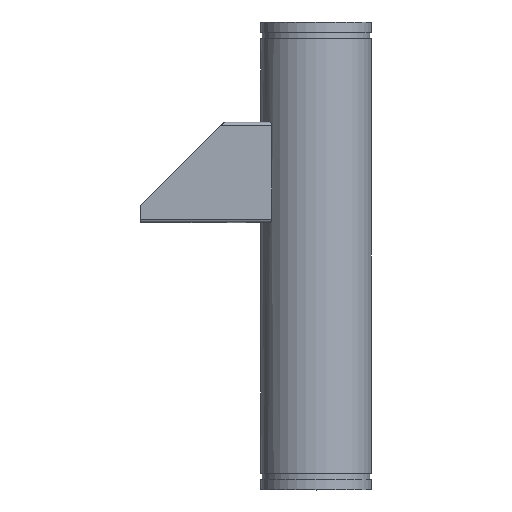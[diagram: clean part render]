
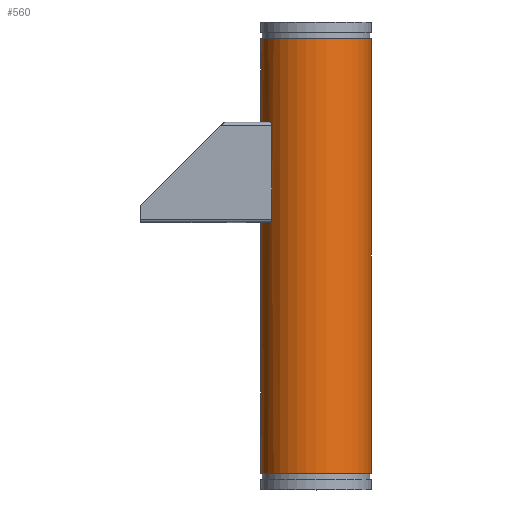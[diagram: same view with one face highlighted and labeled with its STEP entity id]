
A CAD part, top view. The second image highlights one B-rep face of the part: STEP entity #560.
In plain terms, the highlighted cylindrical face has radius 84.138 mm (diameter 168.275 mm), a full revolution.
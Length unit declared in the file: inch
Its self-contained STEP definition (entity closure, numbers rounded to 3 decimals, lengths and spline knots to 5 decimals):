
#22=CIRCLE('',#603,3.3125);
#23=CIRCLE('',#604,3.3125);
#32=CIRCLE('',#621,3.3125);
#33=CIRCLE('',#622,3.3125);
#34=CIRCLE('',#623,3.3125);
#35=CIRCLE('',#624,3.3125);
#36=CIRCLE('',#625,3.3125);
#37=CIRCLE('',#626,3.3125);
#83=FACE_OUTER_BOUND('',#111,.T.);
#111=EDGE_LOOP('',(#407,#408,#409,#410,#411,#412,#413,#414,#415,#416,#417,
#418,#419,#420,#421,#422,#423,#424));
#136=B_SPLINE_CURVE_WITH_KNOTS('',3,(#837,#838,#839,#840,#841,#842,#843,
#844,#845,#846),.UNSPECIFIED.,.F.,.F.,(4,2,2,2,4),(0.,0.19065,
0.38129,0.6161,0.85091),.UNSPECIFIED.);
#137=B_SPLINE_CURVE_WITH_KNOTS('',3,(#863,#864,#865,#866,#867,#868,#869,
#870,#871,#872),.UNSPECIFIED.,.F.,.F.,(4,2,2,2,4),(-0.85091,-0.6161,
-0.38129,-0.19065,0.),.UNSPECIFIED.);
#138=B_SPLINE_CURVE_WITH_KNOTS('',3,(#883,#884,#885,#886,#887,#888,#889,
#890,#891,#892),.UNSPECIFIED.,.F.,.F.,(4,2,2,2,4),(0.83141,1.06622,
1.30102,1.49167,1.68232),.UNSPECIFIED.);
#139=B_SPLINE_CURVE_WITH_KNOTS('',3,(#914,#915,#916,#917,#918,#919,#920,
#921,#922,#923),.UNSPECIFIED.,.F.,.F.,(4,2,2,2,4),(1.68232,1.88416,
2.08601,2.30975,2.53349),.UNSPECIFIED.);
#142=LINE('',#850,#180);
#160=LINE('',#927,#198);
#167=LINE('',#959,#205);
#168=LINE('',#962,#206);
#180=VECTOR('',#671,0.3937);
#198=VECTOR('',#711,0.3937);
#205=VECTOR('',#742,3.3125);
#206=VECTOR('',#745,3.3125);
#220=VERTEX_POINT('',#834);
#221=VERTEX_POINT('',#836);
#222=VERTEX_POINT('',#849);
#227=VERTEX_POINT('',#860);
#228=VERTEX_POINT('',#862);
#229=VERTEX_POINT('',#876);
#231=VERTEX_POINT('',#882);
#239=VERTEX_POINT('',#911);
#240=VERTEX_POINT('',#913);
#251=VERTEX_POINT('',#954);
#252=VERTEX_POINT('',#955);
#253=VERTEX_POINT('',#958);
#254=VERTEX_POINT('',#961);
#255=VERTEX_POINT('',#963);
#276=EDGE_CURVE('',#220,#221,#136,.F.);
#278=EDGE_CURVE('',#222,#221,#142,.T.);
#284=EDGE_CURVE('',#227,#228,#137,.F.);
#287=EDGE_CURVE('',#229,#228,#22,.T.);
#288=EDGE_CURVE('',#220,#229,#23,.T.);
#290=EDGE_CURVE('',#222,#231,#138,.F.);
#301=EDGE_CURVE('',#239,#240,#139,.F.);
#304=EDGE_CURVE('',#227,#240,#160,.T.);
#317=EDGE_CURVE('',#251,#252,#32,.T.);
#318=EDGE_CURVE('',#252,#251,#33,.T.);
#319=EDGE_CURVE('',#252,#253,#167,.T.);
#320=EDGE_CURVE('',#253,#231,#34,.T.);
#321=EDGE_CURVE('',#229,#254,#168,.T.);
#322=EDGE_CURVE('',#254,#255,#35,.T.);
#323=EDGE_CURVE('',#255,#254,#36,.T.);
#324=EDGE_CURVE('',#239,#253,#37,.T.);
#407=ORIENTED_EDGE('',*,*,#317,.F.);
#408=ORIENTED_EDGE('',*,*,#318,.F.);
#409=ORIENTED_EDGE('',*,*,#319,.T.);
#410=ORIENTED_EDGE('',*,*,#320,.T.);
#411=ORIENTED_EDGE('',*,*,#290,.F.);
#412=ORIENTED_EDGE('',*,*,#278,.T.);
#413=ORIENTED_EDGE('',*,*,#276,.F.);
#414=ORIENTED_EDGE('',*,*,#288,.T.);
#415=ORIENTED_EDGE('',*,*,#321,.T.);
#416=ORIENTED_EDGE('',*,*,#322,.T.);
#417=ORIENTED_EDGE('',*,*,#323,.T.);
#418=ORIENTED_EDGE('',*,*,#321,.F.);
#419=ORIENTED_EDGE('',*,*,#287,.T.);
#420=ORIENTED_EDGE('',*,*,#284,.F.);
#421=ORIENTED_EDGE('',*,*,#304,.T.);
#422=ORIENTED_EDGE('',*,*,#301,.F.);
#423=ORIENTED_EDGE('',*,*,#324,.T.);
#424=ORIENTED_EDGE('',*,*,#319,.F.);
#514=CYLINDRICAL_SURFACE('',#620,3.3125);
#560=ADVANCED_FACE('',(#83),#514,.T.);
#603=AXIS2_PLACEMENT_3D('',#877,#684,#685);
#604=AXIS2_PLACEMENT_3D('',#878,#686,#687);
#620=AXIS2_PLACEMENT_3D('',#953,#736,#737);
#621=AXIS2_PLACEMENT_3D('',#956,#738,#739);
#622=AXIS2_PLACEMENT_3D('',#957,#740,#741);
#623=AXIS2_PLACEMENT_3D('',#960,#743,#744);
#624=AXIS2_PLACEMENT_3D('',#964,#746,#747);
#625=AXIS2_PLACEMENT_3D('',#965,#748,#749);
#626=AXIS2_PLACEMENT_3D('',#966,#750,#751);
#671=DIRECTION('',(0.,1.,0.));
#684=DIRECTION('center_axis',(0.,1.,0.));
#685=DIRECTION('ref_axis',(1.,0.,0.));
#686=DIRECTION('center_axis',(0.,1.,0.));
#687=DIRECTION('ref_axis',(1.,0.,0.));
#711=DIRECTION('',(0.,-1.,0.));
#736=DIRECTION('center_axis',(0.,-1.,0.));
#737=DIRECTION('ref_axis',(1.,0.,0.));
#738=DIRECTION('center_axis',(0.,-1.,0.));
#739=DIRECTION('ref_axis',(1.,0.,0.));
#740=DIRECTION('center_axis',(0.,-1.,0.));
#741=DIRECTION('ref_axis',(1.,0.,0.));
#742=DIRECTION('',(0.,1.,0.));
#743=DIRECTION('center_axis',(0.,-1.,0.));
#744=DIRECTION('ref_axis',(1.,0.,0.));
#745=DIRECTION('',(0.,1.,0.));
#746=DIRECTION('center_axis',(0.,-1.,0.));
#747=DIRECTION('ref_axis',(1.,0.,0.));
#748=DIRECTION('center_axis',(0.,-1.,0.));
#749=DIRECTION('ref_axis',(1.,0.,0.));
#750=DIRECTION('center_axis',(0.,-1.,0.));
#751=DIRECTION('ref_axis',(1.,0.,0.));
#834=CARTESIAN_POINT('',(-2.78077,22.,-1.8));
#836=CARTESIAN_POINT('',(-2.64058,21.8,-2.));
#837=CARTESIAN_POINT('Ctrl Pts',(-2.64058,21.8,-2.));
#838=CARTESIAN_POINT('Ctrl Pts',(-2.64058,21.82502,-2.));
#839=CARTESIAN_POINT('Ctrl Pts',(-2.64438,21.85117,-1.99501));
#840=CARTESIAN_POINT('Ctrl Pts',(-2.6586,21.89831,-1.97602));
#841=CARTESIAN_POINT('Ctrl Pts',(-2.66896,21.91933,-1.96206));
#842=CARTESIAN_POINT('Ctrl Pts',(-2.69366,21.95609,-1.92806));
#843=CARTESIAN_POINT('Ctrl Pts',(-2.71043,21.97277,-1.90452));
#844=CARTESIAN_POINT('Ctrl Pts',(-2.74561,21.99472,-1.85344));
#845=CARTESIAN_POINT('Ctrl Pts',(-2.76402,22.,-1.82587));
#846=CARTESIAN_POINT('Ctrl Pts',(-2.78077,22.,-1.8));
#849=CARTESIAN_POINT('',(-2.64058,16.2,-2.));
#850=CARTESIAN_POINT('',(-2.64058,14.,-2.));
#860=CARTESIAN_POINT('',(-2.64058,21.8,2.));
#862=CARTESIAN_POINT('',(-2.78077,22.,1.8));
#863=CARTESIAN_POINT('Ctrl Pts',(-2.78077,22.,1.8));
#864=CARTESIAN_POINT('Ctrl Pts',(-2.76402,22.,1.82587));
#865=CARTESIAN_POINT('Ctrl Pts',(-2.74561,21.99472,1.85344));
#866=CARTESIAN_POINT('Ctrl Pts',(-2.71043,21.97277,1.90452));
#867=CARTESIAN_POINT('Ctrl Pts',(-2.69366,21.95609,1.92806));
#868=CARTESIAN_POINT('Ctrl Pts',(-2.66896,21.91933,1.96206));
#869=CARTESIAN_POINT('Ctrl Pts',(-2.6586,21.89831,1.97602));
#870=CARTESIAN_POINT('Ctrl Pts',(-2.64438,21.85117,1.99501));
#871=CARTESIAN_POINT('Ctrl Pts',(-2.64058,21.82502,2.));
#872=CARTESIAN_POINT('Ctrl Pts',(-2.64058,21.8,2.));
#876=CARTESIAN_POINT('',(-3.3125,22.,0.));
#877=CARTESIAN_POINT('Origin',(0.,22.,0.));
#878=CARTESIAN_POINT('Origin',(0.,22.,0.));
#882=CARTESIAN_POINT('',(-2.78077,16.,-1.8));
#883=CARTESIAN_POINT('Ctrl Pts',(-2.78077,16.,-1.8));
#884=CARTESIAN_POINT('Ctrl Pts',(-2.76402,16.,-1.82587));
#885=CARTESIAN_POINT('Ctrl Pts',(-2.74561,16.00528,-1.85344));
#886=CARTESIAN_POINT('Ctrl Pts',(-2.71043,16.02723,-1.90452));
#887=CARTESIAN_POINT('Ctrl Pts',(-2.69366,16.04391,-1.92806));
#888=CARTESIAN_POINT('Ctrl Pts',(-2.66896,16.08067,-1.96206));
#889=CARTESIAN_POINT('Ctrl Pts',(-2.6586,16.10169,-1.97602));
#890=CARTESIAN_POINT('Ctrl Pts',(-2.64438,16.14883,-1.99501));
#891=CARTESIAN_POINT('Ctrl Pts',(-2.64058,16.17498,-2.));
#892=CARTESIAN_POINT('Ctrl Pts',(-2.64058,16.2,-2.));
#911=CARTESIAN_POINT('',(-2.78077,16.,1.8));
#913=CARTESIAN_POINT('',(-2.64058,16.2,2.));
#914=CARTESIAN_POINT('Ctrl Pts',(-2.64058,16.2,2.));
#915=CARTESIAN_POINT('Ctrl Pts',(-2.64058,16.17351,2.));
#916=CARTESIAN_POINT('Ctrl Pts',(-2.64483,16.14601,1.99442));
#917=CARTESIAN_POINT('Ctrl Pts',(-2.66052,16.0969,1.97344));
#918=CARTESIAN_POINT('Ctrl Pts',(-2.67188,16.07525,1.9581));
#919=CARTESIAN_POINT('Ctrl Pts',(-2.69731,16.04009,1.92294));
#920=CARTESIAN_POINT('Ctrl Pts',(-2.7135,16.02484,1.90012));
#921=CARTESIAN_POINT('Ctrl Pts',(-2.74725,16.0048,1.85098));
#922=CARTESIAN_POINT('Ctrl Pts',(-2.76481,16.,1.82465));
#923=CARTESIAN_POINT('Ctrl Pts',(-2.78077,16.,1.8));
#927=CARTESIAN_POINT('',(-2.64058,14.,2.));
#953=CARTESIAN_POINT('Origin',(0.,14.,0.));
#954=CARTESIAN_POINT('',(3.3125,1.,0.));
#955=CARTESIAN_POINT('',(-3.3125,1.,0.));
#956=CARTESIAN_POINT('Origin',(0.,1.,0.));
#957=CARTESIAN_POINT('Origin',(0.,1.,0.));
#958=CARTESIAN_POINT('',(-3.3125,16.,0.));
#959=CARTESIAN_POINT('',(-3.3125,14.,0.));
#960=CARTESIAN_POINT('Origin',(0.,16.,0.));
#961=CARTESIAN_POINT('',(-3.3125,27.,0.));
#962=CARTESIAN_POINT('',(-3.3125,14.,0.));
#963=CARTESIAN_POINT('',(3.3125,27.,0.));
#964=CARTESIAN_POINT('Origin',(0.,27.,0.));
#965=CARTESIAN_POINT('Origin',(0.,27.,0.));
#966=CARTESIAN_POINT('Origin',(0.,16.,0.));
